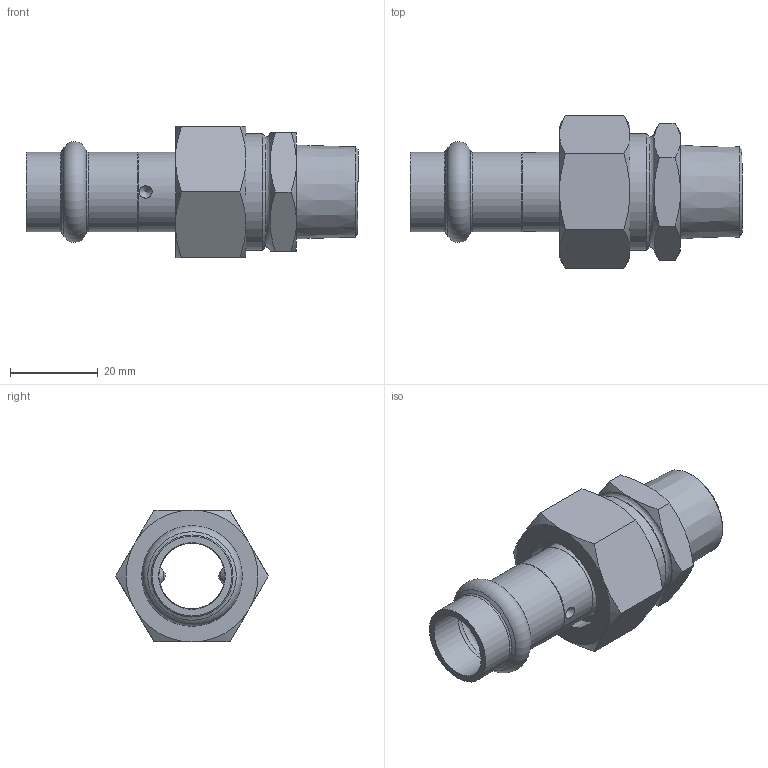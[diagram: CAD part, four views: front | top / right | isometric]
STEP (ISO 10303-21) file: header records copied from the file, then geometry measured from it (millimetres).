
FILE_DESCRIPTION((''),'2;1');
FILE_NAME('G:\Nirosan-Schmiedefeld\Technics\CAD\Bauteile VA\015\69333GMVA1512(5).stp','2011-09-20T11:29:18',('herberg'),(''),'Autodesk Inventor 2009','Autodesk Inventor 2009','');
FILE_SCHEMA(('AUTOMOTIVE_DESIGN { 1 0 10303 214 1 1 1 1 }'));
Length unit declared in the file: millimetre
Products named in the file (7): 69333GMVA1512(5); 69359m1534(3); HM_692431815(0); R1834(0); SM1834(2); FD_2417_EPDM(0); 69376G3412(1)
Assembly tree (6 placements, depth 3):
  69333GMVA1512(5)
    69359m1534(3)
      HM_692431815(0)
      R1834(0)
      SM1834(2)
      FD_2417_EPDM(0)
    69376G3412(1)
Bounding box: 75.5 x 34.64 x 30 mm (x, y, z)
Volume: 17666.5 mm3; surface area: 14580 mm2
Topology: 5 solids, 5 shells, 90 faces, 194 edges, 116 vertices
Faces by surface type: cone 38, plane 24, cylinder 12, bspline 12, sphere 2, torus 2
Full cylindrical faces by diameter (mm): 15 x2, 15.15 x2, 17 x1, 18 x2, 18.15 x2, 23 x1, 24 x1, 26.441 x1
Entity records: 2804 total; most frequent: CARTESIAN_POINT 1032, DIRECTION 340, ORIENTED_EDGE 282, AXIS2_PLACEMENT_3D 164, EDGE_LOOP 142, EDGE_CURVE 141, VERTEX_POINT 103, FACE_OUTER_BOUND 90
